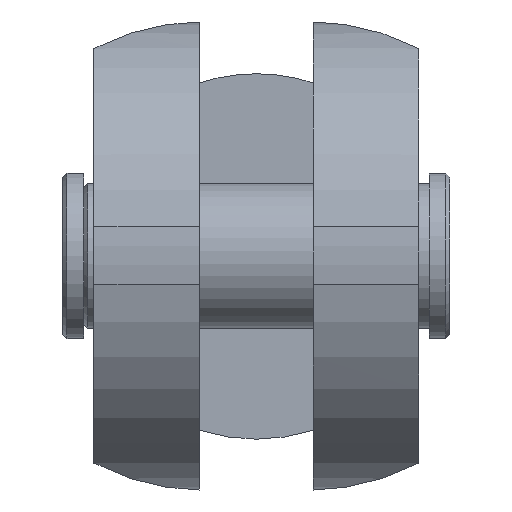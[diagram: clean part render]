
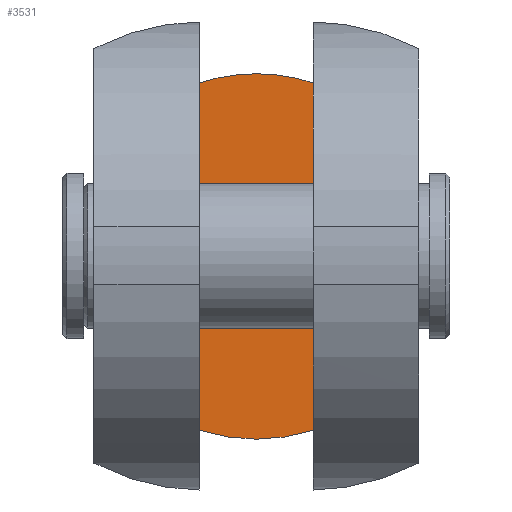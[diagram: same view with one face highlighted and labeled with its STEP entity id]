
A CAD part, top view. The second image highlights one B-rep face of the part: STEP entity #3531.
In plain terms, the highlighted planar face has unit normal (0, 0, 1).
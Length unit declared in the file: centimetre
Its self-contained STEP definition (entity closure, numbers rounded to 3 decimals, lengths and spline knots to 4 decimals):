
#351=LINE('',#5747,#699);
#352=LINE('',#5749,#700);
#699=VECTOR('',#4451,16.7833);
#700=VECTOR('',#4454,16.7833);
#914=PLANE('',#3733);
#1151=FACE_OUTER_BOUND('',#1369,.T.);
#1369=EDGE_LOOP('',(#3067,#3068,#3069,#3070));
#1437=CIRCLE('',#3587,8.8308);
#1438=CIRCLE('',#3588,8.8308);
#1490=VERTEX_POINT('',#4625);
#1491=VERTEX_POINT('',#4629);
#1496=VERTEX_POINT('',#4661);
#1497=VERTEX_POINT('',#4665);
#1806=EDGE_CURVE('',#1490,#1491,#1437,.T.);
#1812=EDGE_CURVE('',#1496,#1497,#1438,.T.);
#2207=EDGE_CURVE('',#1497,#1490,#351,.T.);
#2208=EDGE_CURVE('',#1496,#1491,#352,.T.);
#3067=ORIENTED_EDGE('',*,*,#1812,.F.);
#3068=ORIENTED_EDGE('',*,*,#2208,.T.);
#3069=ORIENTED_EDGE('',*,*,#1806,.F.);
#3070=ORIENTED_EDGE('',*,*,#2207,.F.);
#3531=ADVANCED_FACE('',(#1151),#914,.F.);
#3587=AXIS2_PLACEMENT_3D('',#4630,#3825,#3826);
#3588=AXIS2_PLACEMENT_3D('',#4666,#3827,#3828);
#3733=AXIS2_PLACEMENT_3D('',#5748,#4452,#4453);
#3825=DIRECTION('center_axis',(0.,0.,
-1.));
#3826=DIRECTION('ref_axis',(0.,1.,0.));
#3827=DIRECTION('center_axis',(0.,0.,
-1.));
#3828=DIRECTION('ref_axis',(0.,1.,0.));
#4451=DIRECTION('',(0.,-1.,0.));
#4452=DIRECTION('center_axis',(0.,0.,
-1.));
#4453=DIRECTION('ref_axis',(1.,0.,0.));
#4454=DIRECTION('',(0.,-1.,0.));
#4625=CARTESIAN_POINT('',(2.75,-8.3917,-13.8));
#4629=CARTESIAN_POINT('',(-2.75,-8.3917,-13.8));
#4630=CARTESIAN_POINT('Origin',(0.,0.,
-13.8));
#4661=CARTESIAN_POINT('',(-2.75,8.3917,-13.8));
#4665=CARTESIAN_POINT('',(2.75,8.3917,-13.8));
#4666=CARTESIAN_POINT('Origin',(0.,0.,
-13.8));
#5747=CARTESIAN_POINT('',(2.75,0.,-13.8));
#5748=CARTESIAN_POINT('Origin',(-2.75,0.,
-13.8));
#5749=CARTESIAN_POINT('',(-2.75,0.,-13.8));
